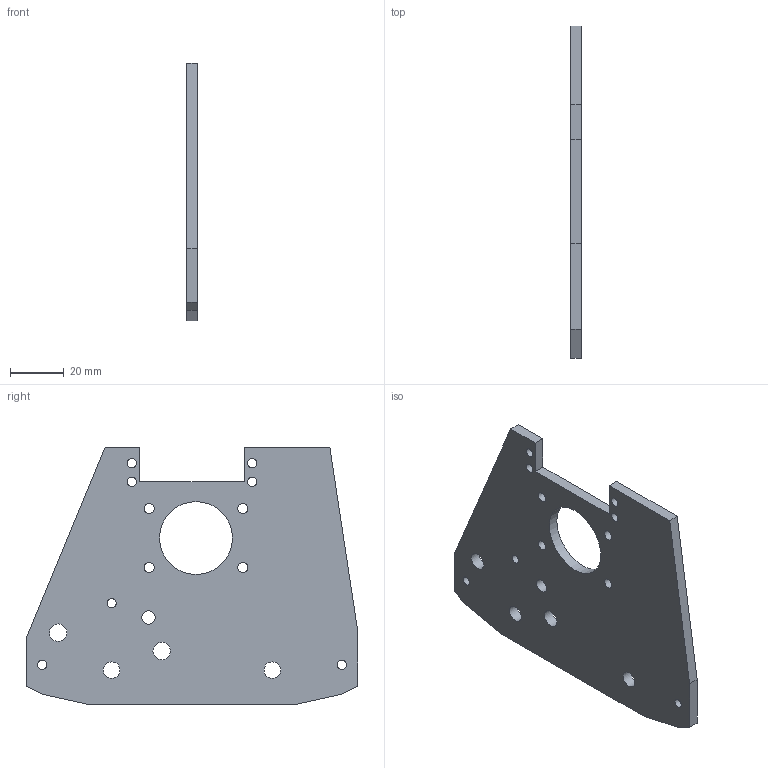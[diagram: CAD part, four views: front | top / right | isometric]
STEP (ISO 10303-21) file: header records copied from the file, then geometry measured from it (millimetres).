
FILE_DESCRIPTION(('Open CASCADE Model'),'2;1');
FILE_NAME('Open CASCADE Shape Model','2026-10-16T05:25:08',('Author'),( 'Open CASCADE'),'Open CASCADE STEP processor 7.9','Open CASCADE 7.9' ,'Unknown');
FILE_SCHEMA(('AUTOMOTIVE_DESIGN { 1 0 10303 214 1 1 1 1 }'));
Length unit declared in the file: millimetre
Products named in the file (1): Open CASCADE STEP translator 7.9 10
Bounding box: 4 x 124 x 96.36 mm (x, y, z)
Volume: 36200.5 mm3; surface area: 21002.1 mm2
Topology: 1 solids, 1 shells, 33 faces, 93 edges, 62 vertices
Faces by surface type: cylinder 17, plane 16
Full cylindrical faces by diameter (mm): 3.4 x7, 3.8 x4, 5.1 x1, 6.2 x2, 6.5 x2, 27.2 x1
Entity records: 2470 total; most frequent: CARTESIAN_POINT 579, DIRECTION 347, LINE 211, VECTOR 211, ORIENTED_EDGE 186, PCURVE 186, DEFINITIONAL_REPRESENTATION 186, EDGE_CURVE 93
